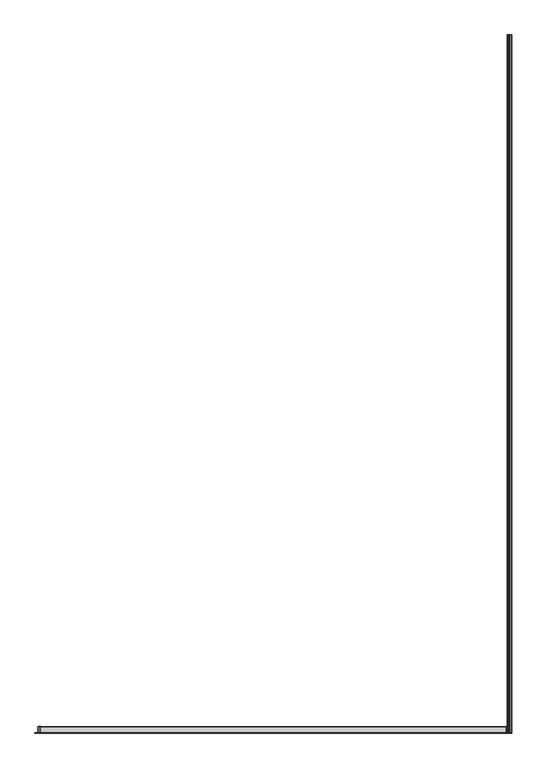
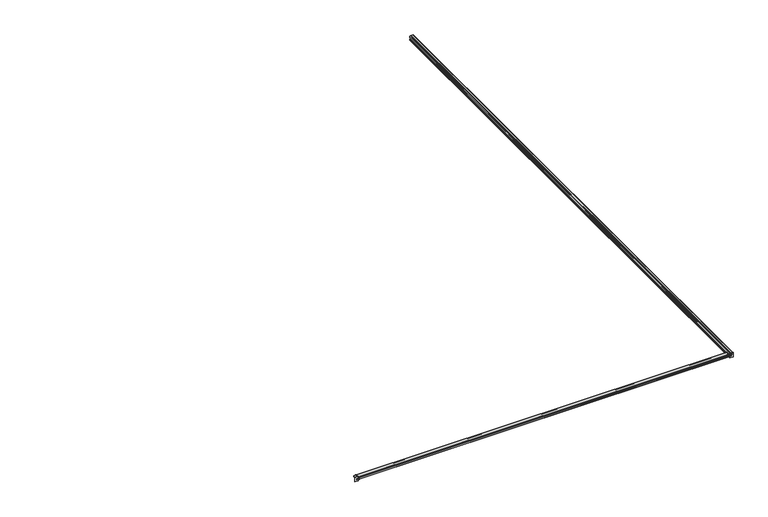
"""IFC4 building model written with IfcOpenShell, lengths in millimetres: proxy geometry, ZIP135 - 4 meter bred : ZIP135 - 4 meter bred."""

from ifc_helpers import new_model, si_unit, point, frame, frame_2d, origin, place, context, project, spatial, polyline, circle_curve, trimmed, segment, composite_curve, outline, extrude, source, transform, mapped, element, save
from ifc_brep_helpers import plane_surface, cylinder_surface, revolved_surface, advanced_brep


def generic_models_36cb86f8(model_context):
    return source(origin(), model_context, "Body", "SolidModel", [
        extrude(outline(polyline([(1978.0, 0.0), (1963.0, 0.0), (1963.0, 55.2300184), (1978.0, 55.2300184), (1978.0, 0.0)])), frame((0.0, 0.0, 17.2883626), z_axis=(0.0, 0.0, 1.0), x_axis=(1.0, 0.0, 0.0)), (0.0, 0.0, 1.0), 11.0704734),
        extrude(outline(polyline([(-1978.0, 0.0), (-1978.0, 55.2300184), (-1963.0, 55.2300184), (-1963.0, 0.0), (-1978.0, 0.0)])), frame((0.0, 0.0, 17.2883626), z_axis=(0.0, 0.0, 1.0), x_axis=(1.0, 0.0, 0.0)), (0.0, 0.0, 1.0), 11.0704734),
        extrude(outline(composite_curve([segment(trimmed(circle_curve(frame_2d((27.7172667, -112.3261712)), 150.0), [point((8.5247175, 36.4409154))], [point((47.4894252, 36.3649911))], False, "CARTESIAN"), True, "CONTINUOUS"), segment(polyline([(47.4894252, 36.3649911), (52.690799, 33.4461938)]), True, "CONTINUOUS"), segment(trimmed(circle_curve(frame_2d((50.7333087, 29.9578945)), 4.0), [point((52.690799, 33.4461938))], [point((54.6573134, 30.7339018))], False, "CARTESIAN"), True, "CONTINUOUS"), segment(trimmed(circle_curve(frame_2d((15.4172667, 22.9738288)), 40.0), [point((54.6573134, 30.7339018))], [point((55.4172667, 22.9738288))], False, "CARTESIAN"), True, "CONTINUOUS"), segment(trimmed(circle_curve(frame_2d((15.4172667, 22.9738288)), 40.0), [point((55.4172667, 22.9738288))], [point((54.6573134, 15.2137557))], False, "CARTESIAN"), True, "CONTINUOUS"), segment(trimmed(circle_curve(frame_2d((50.7333087, 15.989763)), 4.0), [point((54.6573134, 15.2137557))], [point((52.690799, 12.5014637))], False, "CARTESIAN"), True, "CONTINUOUS"), segment(polyline([(52.690799, 12.5014637), (47.4894252, 9.5826664)]), True, "CONTINUOUS"), segment(trimmed(circle_curve(frame_2d((27.7172667, 158.2738288)), 150.0), [point((47.4894252, 9.5826664))], [point((7.9451082, 9.5826664))], False, "CARTESIAN"), True, "CONTINUOUS"), segment(polyline([(7.9451082, 9.5826664), (2.7437344, 12.5014637)]), True, "CONTINUOUS"), segment(trimmed(circle_curve(frame_2d((4.7012246, 15.989763)), 4.0), [point((2.7437344, 12.5014637))], [point((0.77722, 15.2137557))], False, "CARTESIAN"), True, "CONTINUOUS"), segment(trimmed(circle_curve(frame_2d((40.0172667, 22.9738288)), 40.0), [point((0.77722, 15.2137557))], [point((0.77722, 30.7339018))], False, "CARTESIAN"), True, "CONTINUOUS"), segment(trimmed(circle_curve(frame_2d((4.7012246, 29.9578945)), 4.0), [point((0.77722, 30.7339018))], [point((2.7437344, 33.4461938))], False, "CARTESIAN"), True, "CONTINUOUS"), segment(polyline([(2.7437344, 33.4461938), (7.4404509, 36.0817981)]), True, "CONTINUOUS"), segment(trimmed(circle_curve(frame_2d((8.9085685, 33.4655736)), 3.0), [point((7.4404509, 36.0817981))], [point((8.5247175, 36.4409154))], False, "CARTESIAN"), True, "CONTINUOUS")], self_intersect=False)), frame((1956.0, 0.0, 0.0), z_axis=(1.0, 0.0, 0.0), x_axis=(0.0, 1.0, 0.0)), (0.0, 0.0, 1.0), 7.0),
        extrude(outline(composite_curve([segment(trimmed(circle_curve(frame_2d((27.7172667, -112.3261712)), 150.0), [point((8.5247175, 36.4409154))], [point((47.4894252, 36.3649911))], False, "CARTESIAN"), True, "CONTINUOUS"), segment(polyline([(47.4894252, 36.3649911), (52.690799, 33.4461938)]), True, "CONTINUOUS"), segment(trimmed(circle_curve(frame_2d((50.7333087, 29.9578945)), 4.0), [point((52.690799, 33.4461938))], [point((54.6573134, 30.7339018))], False, "CARTESIAN"), True, "CONTINUOUS"), segment(trimmed(circle_curve(frame_2d((15.4172667, 22.9738288)), 40.0), [point((54.6573134, 30.7339018))], [point((55.4172667, 22.9738288))], False, "CARTESIAN"), True, "CONTINUOUS"), segment(trimmed(circle_curve(frame_2d((15.4172667, 22.9738288)), 40.0), [point((55.4172667, 22.9738288))], [point((54.6573134, 15.2137557))], False, "CARTESIAN"), True, "CONTINUOUS"), segment(trimmed(circle_curve(frame_2d((50.7333087, 15.989763)), 4.0), [point((54.6573134, 15.2137557))], [point((52.690799, 12.5014637))], False, "CARTESIAN"), True, "CONTINUOUS"), segment(polyline([(52.690799, 12.5014637), (47.4894252, 9.5826664)]), True, "CONTINUOUS"), segment(trimmed(circle_curve(frame_2d((27.7172667, 158.2738288)), 150.0), [point((47.4894252, 9.5826664))], [point((7.9451082, 9.5826664))], False, "CARTESIAN"), True, "CONTINUOUS"), segment(polyline([(7.9451082, 9.5826664), (2.7437344, 12.5014637)]), True, "CONTINUOUS"), segment(trimmed(circle_curve(frame_2d((4.7012246, 15.989763)), 4.0), [point((2.7437344, 12.5014637))], [point((0.77722, 15.2137557))], False, "CARTESIAN"), True, "CONTINUOUS"), segment(trimmed(circle_curve(frame_2d((40.0172667, 22.9738288)), 40.0), [point((0.77722, 15.2137557))], [point((0.77722, 30.7339018))], False, "CARTESIAN"), True, "CONTINUOUS"), segment(trimmed(circle_curve(frame_2d((4.7012246, 29.9578945)), 4.0), [point((0.77722, 30.7339018))], [point((2.7437344, 33.4461938))], False, "CARTESIAN"), True, "CONTINUOUS"), segment(polyline([(2.7437344, 33.4461938), (7.4404509, 36.0817981)]), True, "CONTINUOUS"), segment(trimmed(circle_curve(frame_2d((8.9085685, 33.4655736)), 3.0), [point((7.4404509, 36.0817981))], [point((8.5247175, 36.4409154))], False, "CARTESIAN"), True, "CONTINUOUS")], self_intersect=False)), frame((-1963.0, 0.0, 0.0), z_axis=(1.0, 0.0, 0.0), x_axis=(0.0, 1.0, 0.0)), (0.0, 0.0, 1.0), 7.0),
        extrude(outline(composite_curve([segment(trimmed(circle_curve(frame_2d((46.5259648, 33.4655736)), 3.0), [point((46.9098158, 36.4409154))], [point((47.9940825, 36.0817981))], False, "CARTESIAN"), True, "CONTINUOUS"), segment(polyline([(47.9940825, 36.0817981), (52.690799, 33.4461938)]), True, "CONTINUOUS"), segment(trimmed(circle_curve(frame_2d((50.7333087, 29.9578945)), 4.0), [point((52.690799, 33.4461938))], [point((54.6573134, 30.7339018))], False, "CARTESIAN"), True, "CONTINUOUS"), segment(trimmed(circle_curve(frame_2d((15.4172667, 22.9738288)), 40.0), [point((54.6573134, 30.7339018))], [point((55.1898026, 27.233569))], False, "CARTESIAN"), True, "CONTINUOUS"), segment(trimmed(circle_curve(frame_2d((53.6983325, 27.0738288)), 1.5), [point((55.1898026, 27.233569))], [point((53.6983325, 25.5738288))], False, "CARTESIAN"), True, "CONTINUOUS"), segment(polyline([(53.6983325, 25.5738288), (51.763915, 25.5738288)]), True, "CONTINUOUS"), segment(trimmed(circle_curve(frame_2d((46.9172667, 22.9738288)), 5.5), [point((51.763915, 25.5738288))], [point((51.763915, 20.3738288))], True, "CARTESIAN"), True, "CONTINUOUS"), segment(polyline([(51.763915, 20.3738288), (53.6983325, 20.3738288)]), True, "CONTINUOUS"), segment(trimmed(circle_curve(frame_2d((53.6983325, 18.8738288)), 1.5), [point((53.6983325, 20.3738288))], [point((55.1898026, 18.7140885))], False, "CARTESIAN"), True, "CONTINUOUS"), segment(trimmed(circle_curve(frame_2d((15.4172667, 22.9738288)), 40.0), [point((55.1898026, 18.7140885))], [point((54.6573134, 15.2137557))], False, "CARTESIAN"), True, "CONTINUOUS"), segment(trimmed(circle_curve(frame_2d((50.7333087, 15.989763)), 4.0), [point((54.6573134, 15.2137557))], [point((52.690799, 12.5014637))], False, "CARTESIAN"), True, "CONTINUOUS"), segment(polyline([(52.690799, 12.5014637), (47.4894252, 9.5826664)]), True, "CONTINUOUS"), segment(trimmed(circle_curve(frame_2d((27.7172667, 158.2738288)), 150.0), [point((47.4894252, 9.5826664))], [point((8.5247175, 9.5067421))], False, "CARTESIAN"), True, "CONTINUOUS"), segment(trimmed(circle_curve(frame_2d((8.9085685, 12.4820839)), 3.0), [point((8.5247175, 9.5067421))], [point((7.4404509, 9.8658594))], False, "CARTESIAN"), True, "CONTINUOUS"), segment(polyline([(7.4404509, 9.8658594), (2.7437344, 12.5014637)]), True, "CONTINUOUS"), segment(trimmed(circle_curve(frame_2d((4.7012246, 15.989763)), 4.0), [point((2.7437344, 12.5014637))], [point((0.77722, 15.2137557))], False, "CARTESIAN"), True, "CONTINUOUS"), segment(trimmed(circle_curve(frame_2d((40.0172667, 22.9738288)), 40.0), [point((0.77722, 15.2137557))], [point((0.77722, 30.7339018))], False, "CARTESIAN"), True, "CONTINUOUS"), segment(trimmed(circle_curve(frame_2d((4.7012246, 29.9578945)), 4.0), [point((0.77722, 30.7339018))], [point((2.7437344, 33.4461938))], False, "CARTESIAN"), True, "CONTINUOUS"), segment(polyline([(2.7437344, 33.4461938), (7.4404509, 36.0817981)]), True, "CONTINUOUS"), segment(trimmed(circle_curve(frame_2d((8.9085685, 33.4655736)), 3.0), [point((7.4404509, 36.0817981))], [point((8.5247175, 36.4409154))], False, "CARTESIAN"), True, "CONTINUOUS"), segment(trimmed(circle_curve(frame_2d((27.7172667, -112.3261712)), 150.0), [point((8.5247175, 36.4409154))], [point((46.9098158, 36.4409154))], False, "CARTESIAN"), True, "CONTINUOUS")], self_intersect=False)), frame((-1956.0, 0.0, 0.0), z_axis=(1.0, 0.0, 0.0), x_axis=(0.0, 1.0, 0.0)), (0.0, 0.0, 1.0), 3912.0),
        extrude(outline(composite_curve([segment(trimmed(circle_curve(frame_2d((2.0, 1998.0)), 2.0), [point((0.0, 1998.0))], [point((2.0, 2000.0))], False, "CARTESIAN"), True, "CONTINUOUS"), segment(polyline([(2.0, 2000.0), (47.953017, 2000.0)]), True, "CONTINUOUS"), segment(trimmed(circle_curve(frame_2d((-251.2154984, 1977.6796188)), 300.0), [point((47.953017, 2000.0))], [point((48.5438844, 1965.6666067))], False, "CARTESIAN"), True, "CONTINUOUS"), segment(trimmed(circle_curve(frame_2d((46.5454885, 1965.7466935)), 2.0), [point((48.5438844, 1965.6666067))], [point((46.7031883, 1963.7529205))], False, "CARTESIAN"), True, "CONTINUOUS"), segment(trimmed(circle_curve(frame_2d((30.1678714, 2172.80625)), 209.70625), [point((46.7031883, 1963.7529205))], [point((20.9005655, 1963.3048697))], False, "CARTESIAN"), True, "CONTINUOUS"), segment(trimmed(circle_curve(frame_2d((11.65, 2047.8)), 85.0), [point((20.9005655, 1963.3048697))], [point((1.7674699, 1963.3764512))], False, "CARTESIAN"), True, "CONTINUOUS"), segment(trimmed(circle_curve(frame_2d((2.0, 1965.3628876)), 2.0), [point((1.7674699, 1963.3764512))], [point((0.0, 1965.3628876))], False, "CARTESIAN"), True, "CONTINUOUS"), segment(polyline([(0.0, 1965.3628876), (0.0, 1998.0)]), True, "CONTINUOUS")], self_intersect=False)), frame((0.0, 0.0, 0.0), z_axis=(0.0, 1.0, 0.0), x_axis=(0.0, 0.0, 1.0)), (0.0, 0.0, 1.0), 2.5),
        advanced_brep(
        [(1972.6, 2.5, 31.4678714), (1969.3, 2.5, 31.4678714), (1968.8, 2.5, 31.9678714), (1968.8, 2.5, 37.8678714), (1978.9, 2.5, 37.8678714), (1979.3769696, 2.5, 38.5178714), (1978.9, 2.5, 39.1678714), (1969.3, 2.5, 39.1678714), (1968.8, 2.5, 39.6678714), (1968.8, 2.5, 43.1361571), (1968.8, 2.5, 46.5762226), (1971.3890908, 2.5, 47.418256), (1977.9003699, 2.5, 47.4844201), (1978.3999988, 2.5, 46.9856568), (1979.1649596, 2.5, 46.5616328), (1980.6187174, 2.5, 47.4700414), (1998.5, 2.5, 46.7579933), (1998.5, 2.5, 45.3433716), (1999.8, 2.5, 45.9678714), (1999.8, 2.5, 47.0376315), (1998.8706367, 2.5, 48.0351336), (1965.6666067, 2.5, 48.5438844), (1963.7529205, 2.5, 46.7031883), (1963.1024072, 2.5, 31.1726628), (1964.1023957, 2.5, 30.1678714), (1972.6, 2.5, 30.1678714), (1973.0769696, 2.5, 30.8178714), (1972.6, 5857.0, 31.4678714), (1973.0769696, 5857.0, 30.8178714), (1972.6, 5857.0, 30.1678714), (1964.1023957, 5857.0, 30.1678714), (1963.1024072, 5857.0, 31.1726628), (1963.7529205, 5857.0, 46.7031883), (1965.6666067, 5857.0, 48.5438844), (1998.8706367, 5857.0, 48.0351336), (1999.8, 5857.0, 47.0376315), (1999.8, 5857.0, 45.9678714), (1998.5, 5857.0, 45.3433716), (1998.5, 5857.0, 46.7579933), (1980.6187174, 5857.0, 47.4700414), (1979.1649596, 5857.0, 46.5616328), (1978.4, 5857.0, 46.9856568), (1977.9003699, 5857.0, 47.4844201), (1971.3890908, 5857.0, 47.418256), (1968.8, 5857.0, 46.5762226), (1968.8, 5857.0, 43.1361571), (1968.8, 5857.0, 39.6678714), (1969.3, 5857.0, 39.1678714), (1978.9, 5857.0, 39.1678714), (1979.3769696, 5857.0, 38.5178714), (1978.9, 5857.0, 37.8678714), (1968.8, 5857.0, 37.8678714), (1968.8, 5857.0, 31.9678714), (1969.3, 5857.0, 31.4678714)],
        [
            (0, 1),
            (1, 2, circle_curve(frame((1969.3, 2.5, 31.9678714), z_axis=(0.0, 1.0, 0.0), x_axis=(-1.0, 0.0, 0.0)), 0.5)),
            (2, 3),
            (3, 4),
            (4, 5, circle_curve(frame((1978.9, 2.5, 38.3678714), z_axis=(0.0, -1.0, 0.0), x_axis=(-1.0, 0.0, 0.0)), 0.5)),
            (5, 6, circle_curve(frame((1978.9, 2.5, 38.6678714), z_axis=(0.0, -1.0, 0.0), x_axis=(-1.0, 0.0, 0.0)), 0.5)),
            (6, 7),
            (7, 8, circle_curve(frame((1969.3, 2.5, 39.6678714), z_axis=(0.0, 1.0, 0.0), x_axis=(-1.0, 0.0, 0.0)), 0.5)),
            (8, 9),
            (9, 10),
            (10, 11, circle_curve(frame((1969.6, 2.5, 48.5178714), z_axis=(0.0, -1.0, 0.0), x_axis=(-1.0, 0.0, 0.0)), 2.1)),
            (11, 12, circle_curve(frame((1977.6796188, 2.5, -251.2154984), z_axis=(0.0, 1.0, 0.0), x_axis=(-1.0, 0.0, 0.0)), 298.7)),
            (12, 13, circle_curve(frame((1977.9000004, 2.5, 46.9844202), z_axis=(0.0, 1.0, 0.0), x_axis=(-1.0, 0.0, 0.0)), 0.5)),
            (13, 14, circle_curve(frame((1978.9, 2.5, 46.9856568), z_axis=(0.0, -1.0, 0.0), x_axis=(-1.0, 0.0, 0.0)), 0.5)),
            (14, 15),
            (15, 16, circle_curve(frame((1977.6796188, 2.5, -251.2154984), z_axis=(0.0, 1.0, 0.0), x_axis=(-1.0, 0.0, 0.0)), 298.7)),
            (16, 17),
            (17, 18, circle_curve(frame((1999.0, 2.5, 45.9678714), z_axis=(0.0, -1.0, 0.0), x_axis=(-1.0, 0.0, 0.0)), 0.8)),
            (18, 19),
            (19, 20, circle_curve(frame((1998.8, 2.5, 47.0376315), z_axis=(0.0, -1.0, 0.0), x_axis=(-1.0, 0.0, 0.0)), 1.0)),
            (20, 21, circle_curve(frame((1977.6796188, 2.5, -251.2154984), z_axis=(0.0, -1.0, 0.0), x_axis=(-1.0, 0.0, 0.0)), 300.0)),
            (21, 22, circle_curve(frame((1965.7466935, 2.5, 46.5454885), z_axis=(0.0, -1.0, 0.0), x_axis=(-1.0, 0.0, 0.0)), 2.0)),
            (22, 23, circle_curve(frame((2172.80625, 2.5, 30.1678714), z_axis=(0.0, -1.0, 0.0), x_axis=(-1.0, 0.0, 0.0)), 209.70625)),
            (23, 24, circle_curve(frame((1964.1023957, 2.5, 31.1678714), z_axis=(0.0, -1.0, 0.0), x_axis=(-1.0, 0.0, 0.0)), 1.0)),
            (24, 25),
            (25, 26, circle_curve(frame((1972.6, 2.5, 30.6678714), z_axis=(0.0, -1.0, 0.0), x_axis=(-1.0, 0.0, 0.0)), 0.5)),
            (26, 0, circle_curve(frame((1972.6, 2.5, 30.9678714), z_axis=(0.0, -1.0, 0.0), x_axis=(-1.0, 0.0, 0.0)), 0.5)),
            (27, 28, circle_curve(frame((1972.6, 5857.0, 30.9678714), z_axis=(0.0, 1.0, 0.0), x_axis=(-1.0, 0.0, 0.0)), 0.5)),
            (28, 29, circle_curve(frame((1972.6, 5857.0, 30.6678714), z_axis=(0.0, 1.0, 0.0), x_axis=(-1.0, 0.0, 0.0)), 0.5)),
            (29, 30),
            (30, 31, circle_curve(frame((1964.1023957, 5857.0, 31.1678714), z_axis=(0.0, 1.0, 0.0), x_axis=(-1.0, 0.0, 0.0)), 1.0)),
            (31, 32, circle_curve(frame((2172.80625, 5857.0, 30.1678714), z_axis=(0.0, 1.0, 0.0), x_axis=(-1.0, 0.0, 0.0)), 209.70625)),
            (32, 33, circle_curve(frame((1965.7466935, 5857.0, 46.5454885), z_axis=(0.0, 1.0, 0.0), x_axis=(-1.0, 0.0, 0.0)), 2.0)),
            (33, 34, circle_curve(frame((1977.6796188, 5857.0, -251.2154984), z_axis=(0.0, 1.0, 0.0), x_axis=(-1.0, 0.0, 0.0)), 300.0)),
            (34, 35, circle_curve(frame((1998.8, 5857.0, 47.0376315), z_axis=(0.0, 1.0, 0.0), x_axis=(-1.0, 0.0, 0.0)), 1.0)),
            (35, 36),
            (36, 37, circle_curve(frame((1999.0, 5857.0, 45.9678714), z_axis=(0.0, 1.0, 0.0), x_axis=(-1.0, 0.0, 0.0)), 0.8)),
            (37, 38),
            (38, 39, circle_curve(frame((1977.6796188, 5857.0, -251.2154984), z_axis=(0.0, -1.0, 0.0), x_axis=(-1.0, 0.0, 0.0)), 298.7)),
            (39, 40),
            (40, 41, circle_curve(frame((1978.9, 5857.0, 46.9856568), z_axis=(0.0, 1.0, 0.0), x_axis=(-1.0, 0.0, 0.0)), 0.5)),
            (41, 42, circle_curve(frame((1977.9000004, 5857.0, 46.9844202), z_axis=(0.0, -1.0, 0.0), x_axis=(-1.0, 0.0, 0.0)), 0.5)),
            (42, 43, circle_curve(frame((1977.6796188, 5857.0, -251.2154984), z_axis=(0.0, -1.0, 0.0), x_axis=(-1.0, 0.0, 0.0)), 298.7)),
            (43, 44, circle_curve(frame((1969.6, 5857.0, 48.5178714), z_axis=(0.0, 1.0, 0.0), x_axis=(-1.0, 0.0, 0.0)), 2.1)),
            (44, 45),
            (45, 46),
            (46, 47, circle_curve(frame((1969.3, 5857.0, 39.6678714), z_axis=(0.0, -1.0, 0.0), x_axis=(-1.0, 0.0, 0.0)), 0.5)),
            (47, 48),
            (48, 49, circle_curve(frame((1978.9, 5857.0, 38.6678714), z_axis=(0.0, 1.0, 0.0), x_axis=(-1.0, 0.0, 0.0)), 0.5)),
            (49, 50, circle_curve(frame((1978.9, 5857.0, 38.3678714), z_axis=(0.0, 1.0, 0.0), x_axis=(-1.0, 0.0, 0.0)), 0.5)),
            (50, 51),
            (51, 52),
            (52, 53, circle_curve(frame((1969.3, 5857.0, 31.9678714), z_axis=(0.0, -1.0, 0.0), x_axis=(-1.0, 0.0, 0.0)), 0.5)),
            (53, 27),
            (0, 27),
            (53, 1),
            (52, 2),
            (51, 3),
            (50, 4),
            (49, 5),
            (48, 6),
            (47, 7),
            (46, 8),
            (45, 9),
            (44, 10),
            (43, 11),
            (42, 12),
            (41, 13),
            (40, 14),
            (39, 15),
            (38, 16),
            (37, 17),
            (36, 18),
            (35, 19),
            (34, 20),
            (33, 21),
            (32, 22),
            (31, 23),
            (30, 24),
            (29, 25),
            (28, 26),
        ],
        [
            plane_surface(frame((1972.1, 2.5, 30.9678714), z_axis=(0.0, -1.0, 0.0), x_axis=(0.0, 0.0, 1.0))),
            plane_surface(frame((1972.1, 5857.0, 30.9678714), z_axis=(0.0, 1.0, 0.0), x_axis=(0.0, 0.0, -1.0))),
            plane_surface(frame((1969.3, 2.5, 31.4678714), z_axis=(0.0, 0.0, 1.0), x_axis=(0.0, 1.0, 0.0))),
            revolved_surface(polyline([(1968.8, 5857.0, 31.9678714), (1968.8, 2.5, 31.9678714)]), (1969.3, 5857.0, 31.9678714), (0.0, 1.0, 0.0)),
            plane_surface(frame((1968.8, 2.5, 37.8678714), z_axis=(1.0, 0.0, 0.0), x_axis=(0.0, 1.0, 0.0))),
            plane_surface(frame((1978.9, 2.5, 37.8678714), z_axis=(0.0, 0.0, -1.0), x_axis=(0.0, 1.0, 0.0))),
            cylinder_surface(frame((1978.9, 5857.0, 38.3678714), z_axis=(0.0, -1.0, 0.0), x_axis=(-1.0, 0.0, 0.0)), 0.5),
            cylinder_surface(frame((1978.9, 5857.0, 38.6678714), z_axis=(0.0, -1.0, 0.0), x_axis=(-1.0, 0.0, 0.0)), 0.5),
            plane_surface(frame((1969.3, 2.5, 39.1678714), z_axis=(0.0, 0.0, 1.0), x_axis=(0.0, 1.0, 0.0))),
            revolved_surface(polyline([(1968.8, 5857.0, 39.6678714), (1968.8, 2.5, 39.6678714)]), (1969.3, 5857.0, 39.6678714), (0.0, 1.0, 0.0)),
            plane_surface(frame((1968.8, 2.5, 43.1361571), z_axis=(1.0, 0.0, 0.0), x_axis=(0.0, 1.0, 0.0))),
            plane_surface(frame((1968.8, 2.5, 46.5762226), z_axis=(1.0, 0.0, 0.0), x_axis=(0.0, 1.0, 0.0))),
            cylinder_surface(frame((1969.6, 5857.0, 48.5178714), z_axis=(0.0, -1.0, 0.0), x_axis=(-1.0, 0.0, 0.0)), 2.1),
            revolved_surface(polyline([(1678.9796188, 5857.0, -251.2154984), (1678.9796188, 2.5, -251.2154984)]), (1977.6796188, 5857.0, -251.2154984), (0.0, 1.0, 0.0)),
            revolved_surface(polyline([(1977.4000004, 5857.0, 46.9844202), (1977.4000004, 2.5, 46.9844202)]), (1977.9000004, 5857.0, 46.9844202), (0.0, 1.0, 0.0)),
            cylinder_surface(frame((1978.9, 5857.0, 46.9856568), z_axis=(0.0, -1.0, 0.0), x_axis=(-1.0, 0.0, 0.0)), 0.5),
            plane_surface(frame((1980.6187174, 2.5, 47.4700414), z_axis=(0.529919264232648, 0.0, -0.848048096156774), x_axis=(0.0, 1.0, 0.0))),
            plane_surface(frame((1998.5, 2.5, 45.3433716), z_axis=(-1.0, 0.0, 0.0), x_axis=(0.0, 1.0, 0.0))),
            cylinder_surface(frame((1999.0, 5857.0, 45.9678714), z_axis=(0.0, -1.0, 0.0), x_axis=(-1.0, 0.0, 0.0)), 0.8),
            plane_surface(frame((1999.8, 2.5, 47.0376315), z_axis=(1.0, 0.0, 0.0), x_axis=(0.0, 1.0, 0.0))),
            cylinder_surface(frame((1998.8, 5857.0, 47.0376315), z_axis=(0.0, -1.0, 0.0), x_axis=(-1.0, 0.0, 0.0)), 1.0),
            cylinder_surface(frame((1977.6796188, 5857.0, -251.2154984), z_axis=(0.0, -1.0, 0.0), x_axis=(-1.0, 0.0, 0.0)), 300.0),
            cylinder_surface(frame((1965.7466935, 5857.0, 46.5454885), z_axis=(0.0, -1.0, 0.0), x_axis=(-1.0, 0.0, 0.0)), 2.0),
            cylinder_surface(frame((2172.80625, 5857.0, 30.1678714), z_axis=(0.0, -1.0, 0.0), x_axis=(-1.0, 0.0, 0.0)), 209.70625),
            cylinder_surface(frame((1964.1023957, 5857.0, 31.1678714), z_axis=(0.0, -1.0, 0.0), x_axis=(-1.0, 0.0, 0.0)), 1.0),
            plane_surface(frame((1972.6, 2.5, 30.1678714), z_axis=(0.0, 0.0, -1.0), x_axis=(0.0, 1.0, 0.0))),
            cylinder_surface(frame((1972.6, 5857.0, 30.6678714), z_axis=(0.0, -1.0, 0.0), x_axis=(-1.0, 0.0, 0.0)), 0.5),
            cylinder_surface(frame((1972.6, 5857.0, 30.9678714), z_axis=(0.0, -1.0, 0.0), x_axis=(-1.0, 0.0, 0.0)), 0.5),
        ],
        [
            (0, [[1, 2, 3, 4, 5, 6, 7, 8, 9, 10, 11, 12, 13, 14, 15, 16, 17, 18, 19, 20, 21, 22, 23, 24, 25, 26, 27]]),
            (1, [[28, 29, 30, 31, 32, 33, 34, 35, 36, 37, 38, 39, 40, 41, 42, 43, 44, 45, 46, 47, 48, 49, 50, 51, 52, 53, 54]]),
            (2, [[55, -54, 56, -1]]),
            (3, [[-56, -53, 57, -2]]),
            (4, [[-57, -52, 58, -3]]),
            (5, [[-58, -51, 59, -4]]),
            (6, [[-59, -50, 60, -5]]),
            (7, [[-60, -49, 61, -6]]),
            (8, [[-61, -48, 62, -7]]),
            (9, [[-62, -47, 63, -8]]),
            (10, [[-63, -46, 64, -9]]),
            (11, [[-64, -45, 65, -10]]),
            (12, [[-65, -44, 66, -11]]),
            (13, [[-66, -43, 67, -12]]),
            (14, [[-67, -42, 68, -13]]),
            (15, [[-68, -41, 69, -14]]),
            (16, [[-69, -40, 70, -15]]),
            (13, [[-70, -39, 71, -16]]),
            (17, [[-71, -38, 72, -17]]),
            (18, [[-72, -37, 73, -18]]),
            (19, [[-73, -36, 74, -19]]),
            (20, [[-74, -35, 75, -20]]),
            (21, [[-75, -34, 76, -21]]),
            (22, [[-76, -33, 77, -22]]),
            (23, [[-77, -32, 78, -23]]),
            (24, [[-78, -31, 79, -24]]),
            (25, [[-79, -30, 80, -25]]),
            (26, [[-80, -29, 81, -26]]),
            (27, [[-81, -28, -55, -27]]),
        ],
    ),
        advanced_brep(
        [(1962.8295553, 2.5, 13.8913237), (1963.3764512, 2.5, 1.7674699), (1965.3628876, 2.5, 0.0), (1972.05, 2.5, 0.0), (1972.05, 2.5, 1.5), (1968.5, 2.5, 1.5), (1968.5, 2.5, 4.8), (1969.5, 2.5, 5.8), (1983.1, 2.5, 5.8), (1984.1, 2.5, 4.8), (1984.1, 2.5, 2.0), (1983.6, 2.5, 1.5), (1980.55, 2.5, 1.5), (1980.55, 2.5, 0.0), (1991.3611718, 2.5, 0.0), (1998.0, 2.5, 0.0), (2000.0, 2.5, 2.0), (2000.0, 2.5, 45.05), (1997.6, 2.5, 45.05), (1997.6, 2.5, 46.75), (1996.0, 2.5, 44.35), (1996.0, 2.5, 43.35), (1996.5, 2.5, 42.85), (1998.1, 2.5, 42.85), (1998.6, 2.5, 42.35), (1998.6, 2.5, 29.6), (1998.1, 2.5, 29.1), (1990.3934914, 2.5, 29.1), (1985.2, 2.5, 29.1), (1985.2, 2.5, 37.0), (1984.479504, 2.5, 38.5371628), (1984.0348837, 2.5, 39.472153), (1981.757213, 2.5, 39.4801617), (1981.1622989, 2.5, 40.0872673), (1981.1730561, 2.5, 41.1478729), (1981.7801617, 2.5, 41.742787), (1984.0348837, 2.5, 41.727847), (1984.8151163, 2.5, 42.5032419), (1981.803125, 2.5, 43.0671573), (1981.1055598, 2.5, 43.5983945), (1979.1, 2.5, 45.9), (1968.8101021, 2.5, 45.9), (1969.3, 2.5, 44.7), (1978.6, 2.5, 44.7), (1979.6, 2.5, 43.7), (1979.6, 2.5, 41.5), (1978.6, 2.5, 40.5), (1968.8101021, 2.5, 40.5), (1969.3, 2.5, 39.3), (1979.724617, 2.5, 39.3), (1979.724617, 2.5, 38.3794826), (1980.7, 2.5, 37.6), (1982.8, 2.5, 37.6), (1983.8, 2.5, 36.6), (1983.8, 2.5, 20.6143806), (1983.8, 2.5, 7.2), (1969.5, 2.5, 7.2), (1968.5, 2.5, 8.2), (1968.5, 2.5, 12.85), (1969.0, 2.5, 13.35), (1972.3, 2.5, 13.35), (1972.7769696, 2.5, 14.0), (1972.3, 2.5, 14.65), (1963.8, 2.5, 14.65), (1962.8295553, 5857.0, 13.8913237), (1963.8, 5857.0, 14.65), (1972.3, 5857.0, 14.65), (1972.7769696, 5857.0, 14.0), (1972.3, 5857.0, 13.35), (1969.0, 5857.0, 13.35), (1968.5, 5857.0, 12.85), (1968.5, 5857.0, 8.2), (1969.5, 5857.0, 7.2), (1983.8, 5857.0, 7.2), (1983.8, 5857.0, 20.6143806), (1983.8, 5857.0, 36.6), (1982.8, 5857.0, 37.6), (1980.7, 5857.0, 37.6), (1979.724617, 5857.0, 38.3794826), (1979.724617, 5857.0, 39.3), (1969.3, 5857.0, 39.3), (1968.8101021, 5857.0, 40.5), (1978.6, 5857.0, 40.5), (1979.6, 5857.0, 41.5), (1979.6, 5857.0, 43.7), (1978.6, 5857.0, 44.7), (1969.3, 5857.0, 44.7), (1968.8101021, 5857.0, 45.9), (1979.1, 5857.0, 45.9), (1981.077761, 5857.0, 43.6025751), (1981.803125, 5857.0, 43.0671573), (1984.8151163, 5857.0, 42.5032419), (1984.0348837, 5857.0, 41.727847), (1981.7801617, 5857.0, 41.742787), (1981.1730561, 5857.0, 41.1478729), (1981.1622989, 5857.0, 40.0872673), (1981.757213, 5857.0, 39.4801617), (1984.0348837, 5857.0, 39.472153), (1984.479504, 5857.0, 38.5371628), (1985.2, 5857.0, 37.0), (1985.2, 5857.0, 29.1), (1990.3934914, 5857.0, 29.1), (1998.1, 5857.0, 29.1), (1998.6, 5857.0, 29.6), (1998.6, 5857.0, 42.35), (1998.1, 5857.0, 42.85), (1996.5, 5857.0, 42.85), (1996.0, 5857.0, 43.35), (1996.0, 5857.0, 44.35), (1997.6, 5857.0, 46.75), (1997.6, 5857.0, 45.05), (2000.0, 5857.0, 45.05), (2000.0, 5857.0, 2.0), (1998.0, 5857.0, 0.0), (1991.3611718, 5857.0, 0.0), (1980.55, 5857.0, 0.0), (1980.55, 5857.0, 1.5), (1983.6, 5857.0, 1.5), (1984.1, 5857.0, 2.0), (1984.1, 5857.0, 4.8), (1983.1, 5857.0, 5.8), (1969.5, 5857.0, 5.8), (1968.5, 5857.0, 4.8), (1968.5, 5857.0, 1.5), (1972.05, 5857.0, 1.5), (1972.05, 5857.0, 0.0), (1965.3628876, 5857.0, 0.0), (1963.3764512, 5857.0, 1.7674699)],
        [
            (0, 1, circle_curve(frame((2047.8, 2.5, 11.65), z_axis=(0.0, -1.0, 0.0), x_axis=(-1.0, 0.0, 0.0)), 85.0)),
            (1, 2, circle_curve(frame((1965.3628876, 2.5, 2.0), z_axis=(0.0, -1.0, 0.0), x_axis=(-1.0, 0.0, 0.0)), 2.0)),
            (2, 3),
            (3, 4),
            (4, 5),
            (5, 6),
            (6, 7, circle_curve(frame((1969.5, 2.5, 4.8), z_axis=(0.0, 1.0, 0.0), x_axis=(-1.0, 0.0, 0.0)), 1.0)),
            (7, 8),
            (8, 9, circle_curve(frame((1983.1, 2.5, 4.8), z_axis=(0.0, 1.0, 0.0), x_axis=(-1.0, 0.0, 0.0)), 1.0)),
            (9, 10),
            (10, 11, circle_curve(frame((1983.6, 2.5, 2.0), z_axis=(0.0, 1.0, 0.0), x_axis=(-1.0, 0.0, 0.0)), 0.5)),
            (11, 12),
            (12, 13),
            (13, 14),
            (14, 15),
            (15, 16, circle_curve(frame((1998.0, 2.5, 2.0), z_axis=(0.0, -1.0, 0.0), x_axis=(-1.0, 0.0, 0.0)), 2.0)),
            (16, 17),
            (17, 18, circle_curve(frame((1998.8, 2.5, 45.55), z_axis=(0.0, 1.0, 0.0), x_axis=(-1.0, 0.0, 0.0)), 1.3)),
            (18, 19),
            (19, 20),
            (20, 21),
            (21, 22, circle_curve(frame((1996.5, 2.5, 43.35), z_axis=(0.0, -1.0, 0.0), x_axis=(-1.0, 0.0, 0.0)), 0.5)),
            (22, 23),
            (23, 24, circle_curve(frame((1998.1, 2.5, 42.35), z_axis=(0.0, 1.0, 0.0), x_axis=(-1.0, 0.0, 0.0)), 0.5)),
            (24, 25),
            (25, 26, circle_curve(frame((1998.1, 2.5, 29.6), z_axis=(0.0, 1.0, 0.0), x_axis=(-1.0, 0.0, 0.0)), 0.5)),
            (26, 27),
            (27, 28),
            (28, 29),
            (29, 30, circle_curve(frame((1983.2, 2.5, 37.0), z_axis=(0.0, -1.0, 0.0), x_axis=(-1.0, 0.0, 0.0)), 2.0)),
            (30, 31, circle_curve(frame((1984.425, 2.5, 39.0844555), z_axis=(0.0, -1.0, 0.0), x_axis=(-1.0, 0.0, 0.0)), 0.55)),
            (31, 32, circle_curve(frame((1982.9, 2.5, 40.6), z_axis=(0.0, 1.0, 0.0), x_axis=(-1.0, 0.0, 0.0)), 1.6)),
            (32, 33),
            (33, 34, circle_curve(frame((1981.6979803, 2.5, 40.6121915), z_axis=(0.0, 1.0, 0.0), x_axis=(-1.0, 0.0, 0.0)), 0.75)),
            (34, 35),
            (35, 36, circle_curve(frame((1982.9, 2.5, 40.6), z_axis=(0.0, 1.0, 0.0), x_axis=(-1.0, 0.0, 0.0)), 1.6)),
            (36, 37, circle_curve(frame((1984.425, 2.5, 42.1155445), z_axis=(0.0, -1.0, 0.0), x_axis=(-1.0, 0.0, 0.0)), 0.55)),
            (37, 38, circle_curve(frame((1982.9, 2.5, 40.6), z_axis=(0.0, -1.0, 0.0), x_axis=(-1.0, 0.0, 0.0)), 2.7)),
            (38, 39, circle_curve(frame((1981.6, 2.5, 43.5240383), z_axis=(0.0, 1.0, 0.0), x_axis=(-1.0, 0.0, 0.0)), 0.5)),
            (39, 40, circle_curve(frame((1979.1, 2.5, 43.9), z_axis=(0.0, -1.0, 0.0), x_axis=(-1.0, 0.0, 0.0)), 2.0)),
            (40, 41),
            (41, 42, circle_curve(frame((1969.3, 2.5, 45.4), z_axis=(0.0, -1.0, 0.0), x_axis=(-1.0, 0.0, 0.0)), 0.7)),
            (42, 43),
            (43, 44, circle_curve(frame((1978.6, 2.5, 43.7), z_axis=(0.0, 1.0, 0.0), x_axis=(-1.0, 0.0, 0.0)), 1.0)),
            (44, 45),
            (45, 46, circle_curve(frame((1978.6, 2.5, 41.5), z_axis=(0.0, 1.0, 0.0), x_axis=(-1.0, 0.0, 0.0)), 1.0)),
            (46, 47),
            (47, 48, circle_curve(frame((1969.3, 2.5, 40.0), z_axis=(0.0, -1.0, 0.0), x_axis=(-1.0, 0.0, 0.0)), 0.7)),
            (48, 49),
            (49, 50),
            (50, 51, circle_curve(frame((1980.7, 2.5, 38.6), z_axis=(0.0, -1.0, 0.0), x_axis=(-1.0, 0.0, 0.0)), 1.0)),
            (51, 52),
            (52, 53, circle_curve(frame((1982.8, 2.5, 36.6), z_axis=(0.0, 1.0, 0.0), x_axis=(-1.0, 0.0, 0.0)), 1.0)),
            (53, 54),
            (54, 55),
            (55, 56),
            (56, 57, circle_curve(frame((1969.5, 2.5, 8.2), z_axis=(0.0, 1.0, 0.0), x_axis=(-1.0, 0.0, 0.0)), 1.0)),
            (57, 58),
            (58, 59, circle_curve(frame((1969.0, 2.5, 12.85), z_axis=(0.0, 1.0, 0.0), x_axis=(-1.0, 0.0, 0.0)), 0.5)),
            (59, 60),
            (60, 61, circle_curve(frame((1972.3, 2.5, 13.85), z_axis=(0.0, -1.0, 0.0), x_axis=(-1.0, 0.0, 0.0)), 0.5)),
            (61, 62, circle_curve(frame((1972.3, 2.5, 14.15), z_axis=(0.0, -1.0, 0.0), x_axis=(-1.0, 0.0, 0.0)), 0.5)),
            (62, 63),
            (63, 0, circle_curve(frame((1963.8, 2.5, 13.65), z_axis=(0.0, -1.0, 0.0), x_axis=(-1.0, 0.0, 0.0)), 1.0)),
            (64, 65, circle_curve(frame((1963.8, 5857.0, 13.65), z_axis=(0.0, 1.0, 0.0), x_axis=(-1.0, 0.0, 0.0)), 1.0)),
            (65, 66),
            (66, 67, circle_curve(frame((1972.3, 5857.0, 14.15), z_axis=(0.0, 1.0, 0.0), x_axis=(-1.0, 0.0, 0.0)), 0.5)),
            (67, 68, circle_curve(frame((1972.3, 5857.0, 13.85), z_axis=(0.0, 1.0, 0.0), x_axis=(-1.0, 0.0, 0.0)), 0.5)),
            (68, 69),
            (69, 70, circle_curve(frame((1969.0, 5857.0, 12.85), z_axis=(0.0, -1.0, 0.0), x_axis=(-1.0, 0.0, 0.0)), 0.5)),
            (70, 71),
            (71, 72, circle_curve(frame((1969.5, 5857.0, 8.2), z_axis=(0.0, -1.0, 0.0), x_axis=(-1.0, 0.0, 0.0)), 1.0)),
            (72, 73),
            (73, 74),
            (74, 75),
            (75, 76, circle_curve(frame((1982.8, 5857.0, 36.6), z_axis=(0.0, -1.0, 0.0), x_axis=(-1.0, 0.0, 0.0)), 1.0)),
            (76, 77),
            (77, 78, circle_curve(frame((1980.7, 5857.0, 38.6), z_axis=(0.0, 1.0, 0.0), x_axis=(-1.0, 0.0, 0.0)), 1.0)),
            (78, 79),
            (79, 80),
            (80, 81, circle_curve(frame((1969.3, 5857.0, 40.0), z_axis=(0.0, 1.0, 0.0), x_axis=(-1.0, 0.0, 0.0)), 0.7)),
            (81, 82),
            (82, 83, circle_curve(frame((1978.6, 5857.0, 41.5), z_axis=(0.0, -1.0, 0.0), x_axis=(-1.0, 0.0, 0.0)), 1.0)),
            (83, 84),
            (84, 85, circle_curve(frame((1978.6, 5857.0, 43.7), z_axis=(0.0, -1.0, 0.0), x_axis=(-1.0, 0.0, 0.0)), 1.0)),
            (85, 86),
            (86, 87, circle_curve(frame((1969.3, 5857.0, 45.4), z_axis=(0.0, 1.0, 0.0), x_axis=(-1.0, 0.0, 0.0)), 0.7)),
            (87, 88),
            (88, 89, circle_curve(frame((1979.1, 5857.0, 43.9), z_axis=(0.0, 1.0, 0.0), x_axis=(-1.0, 0.0, 0.0)), 2.0)),
            (89, 90, circle_curve(frame((1981.6, 5857.0, 43.5240383), z_axis=(0.0, -1.0, 0.0), x_axis=(-1.0, 0.0, 0.0)), 0.5)),
            (90, 91, circle_curve(frame((1982.9, 5857.0, 40.6), z_axis=(0.0, 1.0, 0.0), x_axis=(-1.0, 0.0, 0.0)), 2.7)),
            (91, 92, circle_curve(frame((1984.425, 5857.0, 42.1155445), z_axis=(0.0, 1.0, 0.0), x_axis=(-1.0, 0.0, 0.0)), 0.55)),
            (92, 93, circle_curve(frame((1982.9, 5857.0, 40.6), z_axis=(0.0, -1.0, 0.0), x_axis=(-1.0, 0.0, 0.0)), 1.6)),
            (93, 94),
            (94, 95, circle_curve(frame((1981.6979803, 5857.0, 40.6121915), z_axis=(0.0, -1.0, 0.0), x_axis=(-1.0, 0.0, 0.0)), 0.75)),
            (95, 96),
            (96, 97, circle_curve(frame((1982.9, 5857.0, 40.6), z_axis=(0.0, -1.0, 0.0), x_axis=(-1.0, 0.0, 0.0)), 1.6)),
            (97, 98, circle_curve(frame((1984.425, 5857.0, 39.0844555), z_axis=(0.0, 1.0, 0.0), x_axis=(-1.0, 0.0, 0.0)), 0.55)),
            (98, 99, circle_curve(frame((1983.2, 5857.0, 37.0), z_axis=(0.0, 1.0, 0.0), x_axis=(-1.0, 0.0, 0.0)), 2.0)),
            (99, 100),
            (100, 101),
            (101, 102),
            (102, 103, circle_curve(frame((1998.1, 5857.0, 29.6), z_axis=(0.0, -1.0, 0.0), x_axis=(-1.0, 0.0, 0.0)), 0.5)),
            (103, 104),
            (104, 105, circle_curve(frame((1998.1, 5857.0, 42.35), z_axis=(0.0, -1.0, 0.0), x_axis=(-1.0, 0.0, 0.0)), 0.5)),
            (105, 106),
            (106, 107, circle_curve(frame((1996.5, 5857.0, 43.35), z_axis=(0.0, 1.0, 0.0), x_axis=(-1.0, 0.0, 0.0)), 0.5)),
            (107, 108),
            (108, 109),
            (109, 110),
            (110, 111, circle_curve(frame((1998.8, 5857.0, 45.55), z_axis=(0.0, -1.0, 0.0), x_axis=(-1.0, 0.0, 0.0)), 1.3)),
            (111, 112),
            (112, 113, circle_curve(frame((1998.0, 5857.0, 2.0), z_axis=(0.0, 1.0, 0.0), x_axis=(-1.0, 0.0, 0.0)), 2.0)),
            (113, 114),
            (114, 115),
            (115, 116),
            (116, 117),
            (117, 118, circle_curve(frame((1983.6, 5857.0, 2.0), z_axis=(0.0, -1.0, 0.0), x_axis=(-1.0, 0.0, 0.0)), 0.5)),
            (118, 119),
            (119, 120, circle_curve(frame((1983.1, 5857.0, 4.8), z_axis=(0.0, -1.0, 0.0), x_axis=(-1.0, 0.0, 0.0)), 1.0)),
            (120, 121),
            (121, 122, circle_curve(frame((1969.5, 5857.0, 4.8), z_axis=(0.0, -1.0, 0.0), x_axis=(-1.0, 0.0, 0.0)), 1.0)),
            (122, 123),
            (123, 124),
            (124, 125),
            (125, 126),
            (126, 127, circle_curve(frame((1965.3628876, 5857.0, 2.0), z_axis=(0.0, 1.0, 0.0), x_axis=(-1.0, 0.0, 0.0)), 2.0)),
            (127, 64, circle_curve(frame((2047.8, 5857.0, 11.65), z_axis=(0.0, 1.0, 0.0), x_axis=(-1.0, 0.0, 0.0)), 85.0)),
            (0, 64),
            (127, 1),
            (126, 2),
            (125, 3),
            (124, 4),
            (123, 5),
            (122, 6),
            (121, 7),
            (120, 8),
            (119, 9),
            (118, 10),
            (117, 11),
            (116, 12),
            (115, 13),
            (114, 14),
            (113, 15),
            (112, 16),
            (111, 17),
            (110, 18),
            (109, 19),
            (108, 20),
            (107, 21),
            (106, 22),
            (105, 23),
            (104, 24),
            (103, 25),
            (102, 26),
            (101, 27),
            (100, 28),
            (99, 29),
            (98, 30),
            (97, 31),
            (96, 32),
            (95, 33),
            (94, 34),
            (93, 35),
            (92, 36),
            (91, 37),
            (90, 38),
            (89, 39),
            (88, 40),
            (87, 41),
            (86, 42),
            (85, 43),
            (84, 44),
            (83, 45),
            (82, 46),
            (81, 47),
            (80, 48),
            (79, 49),
            (78, 50),
            (77, 51),
            (76, 52),
            (75, 53),
            (74, 54),
            (73, 55),
            (72, 56),
            (71, 57),
            (70, 58),
            (69, 59),
            (68, 60),
            (67, 61),
            (66, 62),
            (65, 63),
        ],
        [
            plane_surface(frame((1962.8, 2.5, 13.65), z_axis=(0.0, -1.0, 0.0), x_axis=(0.0, 0.0, 1.0))),
            plane_surface(frame((1962.8, 5857.0, 13.65), z_axis=(0.0, 1.0, 0.0), x_axis=(0.0, 0.0, -1.0))),
            cylinder_surface(frame((2047.8, 5857.0, 11.65), z_axis=(0.0, -1.0, 0.0), x_axis=(-1.0, 0.0, 0.0)), 85.0),
            cylinder_surface(frame((1965.3628876, 5857.0, 2.0), z_axis=(0.0, -1.0, 0.0), x_axis=(-1.0, 0.0, 0.0)), 2.0),
            plane_surface(frame((1972.05, 2.5, 0.0), z_axis=(0.0, 0.0, -1.0), x_axis=(0.0, 1.0, 0.0))),
            plane_surface(frame((1972.05, 2.5, 1.5), z_axis=(1.0, 0.0, 0.0), x_axis=(0.0, 1.0, 0.0))),
            plane_surface(frame((1968.5, 2.5, 1.5), z_axis=(0.0, 0.0, 1.0), x_axis=(0.0, 1.0, 0.0))),
            plane_surface(frame((1968.5, 2.5, 4.8), z_axis=(1.0, 0.0, 0.0), x_axis=(0.0, 1.0, 0.0))),
            revolved_surface(polyline([(1968.5, 5857.0, 4.8), (1968.5, 2.5, 4.8)]), (1969.5, 5857.0, 4.8), (0.0, 1.0, 0.0)),
            plane_surface(frame((1983.1, 2.5, 5.8), z_axis=(0.0, 0.0, -1.0), x_axis=(0.0, 1.0, 0.0))),
            revolved_surface(polyline([(1982.1, 5857.0, 4.8), (1982.1, 2.5, 4.8)]), (1983.1, 5857.0, 4.8), (0.0, 1.0, 0.0)),
            plane_surface(frame((1984.1, 2.5, 2.0), z_axis=(-1.0, 0.0, 0.0), x_axis=(0.0, 1.0, 0.0))),
            revolved_surface(polyline([(1983.1, 5857.0, 2.0), (1983.1, 2.5, 2.0)]), (1983.6, 5857.0, 2.0), (0.0, 1.0, 0.0)),
            plane_surface(frame((1980.55, 2.5, 1.5), z_axis=(0.0, 0.0, 1.0), x_axis=(0.0, 1.0, 0.0))),
            plane_surface(frame((1980.55, 2.5, 0.0), z_axis=(-1.0, 0.0, 0.0), x_axis=(0.0, 1.0, 0.0))),
            plane_surface(frame((1991.3611718, 2.5, 0.0), z_axis=(0.0, 0.0, -1.0), x_axis=(0.0, 1.0, 0.0))),
            plane_surface(frame((1998.0, 2.5, 0.0), z_axis=(0.0, 0.0, -1.0), x_axis=(0.0, 1.0, 0.0))),
            cylinder_surface(frame((1998.0, 5857.0, 2.0), z_axis=(0.0, -1.0, 0.0), x_axis=(-1.0, 0.0, 0.0)), 2.0),
            plane_surface(frame((2000.0, 2.5, 45.05), z_axis=(1.0, 0.0, 0.0), x_axis=(0.0, 1.0, 0.0))),
            revolved_surface(polyline([(1997.5, 5857.0, 45.55), (1997.5, 2.5, 45.55)]), (1998.8, 5857.0, 45.55), (0.0, 1.0, 0.0)),
            plane_surface(frame((1997.6, 2.5, 46.75), z_axis=(1.0, 0.0, 0.0), x_axis=(0.0, 1.0, 0.0))),
            plane_surface(frame((1996.0, 2.5, 44.35), z_axis=(-0.8320502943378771, 0.0, 0.5547001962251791), x_axis=(0.0, 1.0, 0.0))),
            plane_surface(frame((1996.0, 2.5, 43.35), z_axis=(-1.0, 0.0, 0.0), x_axis=(0.0, 1.0, 0.0))),
            cylinder_surface(frame((1996.5, 5857.0, 43.35), z_axis=(0.0, -1.0, 0.0), x_axis=(-1.0, 0.0, 0.0)), 0.5),
            plane_surface(frame((1998.1, 2.5, 42.85), z_axis=(0.0, 0.0, -1.0), x_axis=(0.0, 1.0, 0.0))),
            revolved_surface(polyline([(1997.6, 5857.0, 42.35), (1997.6, 2.5, 42.35)]), (1998.1, 5857.0, 42.35), (0.0, 1.0, 0.0)),
            plane_surface(frame((1998.6, 2.5, 29.6), z_axis=(-1.0, 0.0, 0.0), x_axis=(0.0, 1.0, 0.0))),
            revolved_surface(polyline([(1997.6, 5857.0, 29.6), (1997.6, 2.5, 29.6)]), (1998.1, 5857.0, 29.6), (0.0, 1.0, 0.0)),
            plane_surface(frame((1990.3934914, 2.5, 29.1), z_axis=(0.0, 0.0, 1.0), x_axis=(0.0, 1.0, 0.0))),
            plane_surface(frame((1985.2, 2.5, 29.1), z_axis=(0.0, 0.0, 1.0), x_axis=(0.0, 1.0, 0.0))),
            plane_surface(frame((1985.2, 2.5, 37.0), z_axis=(1.0, 0.0, 0.0), x_axis=(0.0, 1.0, 0.0))),
            cylinder_surface(frame((1983.2, 5857.0, 37.0), z_axis=(0.0, -1.0, 0.0), x_axis=(-1.0, 0.0, 0.0)), 2.0),
            cylinder_surface(frame((1984.425, 5857.0, 39.0844555), z_axis=(0.0, -1.0, 0.0), x_axis=(-1.0, 0.0, 0.0)), 0.55),
            revolved_surface(polyline([(1981.3000000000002, 5857.0, 40.6), (1981.3000000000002, 2.5, 40.6)]), (1982.9, 5857.0, 40.6), (0.0, 1.0, 0.0)),
            plane_surface(frame((1981.1622989, 2.5, 40.0872673), z_axis=(0.7142418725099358, 0.0, 0.6998989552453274), x_axis=(0.0, 1.0, 0.0))),
            revolved_surface(polyline([(1980.9479803, 5857.0, 40.6121915), (1980.9479803, 2.5, 40.6121915)]), (1981.6979803, 5857.0, 40.6121915), (0.0, 1.0, 0.0)),
            plane_surface(frame((1981.7801617, 2.5, 41.742787), z_axis=(0.6998989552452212, 0.0, -0.7142418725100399), x_axis=(0.0, 1.0, 0.0))),
            cylinder_surface(frame((1984.425, 5857.0, 42.1155445), z_axis=(0.0, -1.0, 0.0), x_axis=(-1.0, 0.0, 0.0)), 0.55),
            cylinder_surface(frame((1982.9, 5857.0, 40.6), z_axis=(0.0, -1.0, 0.0), x_axis=(-1.0, 0.0, 0.0)), 2.7),
            revolved_surface(polyline([(1981.1, 5857.0, 43.5240383), (1981.1, 2.5, 43.5240383)]), (1981.6, 5857.0, 43.5240383), (0.0, 1.0, 0.0)),
            cylinder_surface(frame((1979.1, 5857.0, 43.9), z_axis=(0.0, -1.0, 0.0), x_axis=(-1.0, 0.0, 0.0)), 2.0),
            plane_surface(frame((1968.8101021, 2.5, 45.9), z_axis=(0.0, 0.0, 1.0), x_axis=(0.0, 1.0, 0.0))),
            cylinder_surface(frame((1969.3, 5857.0, 45.4), z_axis=(0.0, -1.0, 0.0), x_axis=(-1.0, 0.0, 0.0)), 0.7),
            plane_surface(frame((1978.6, 2.5, 44.7), z_axis=(0.0, 0.0, -1.0), x_axis=(0.0, 1.0, 0.0))),
            revolved_surface(polyline([(1977.6, 5857.0, 43.7), (1977.6, 2.5, 43.7)]), (1978.6, 5857.0, 43.7), (0.0, 1.0, 0.0)),
            plane_surface(frame((1979.6, 2.5, 41.5), z_axis=(-1.0, 0.0, 0.0), x_axis=(0.0, 1.0, 0.0))),
            revolved_surface(polyline([(1977.6, 5857.0, 41.5), (1977.6, 2.5, 41.5)]), (1978.6, 5857.0, 41.5), (0.0, 1.0, 0.0)),
            plane_surface(frame((1968.8101021, 2.5, 40.5), z_axis=(0.0, 0.0, 1.0), x_axis=(0.0, 1.0, 0.0))),
            cylinder_surface(frame((1969.3, 5857.0, 40.0), z_axis=(0.0, -1.0, 0.0), x_axis=(-1.0, 0.0, 0.0)), 0.7),
            plane_surface(frame((1979.724617, 2.5, 39.3), z_axis=(0.0, 0.0, -1.0), x_axis=(0.0, 1.0, 0.0))),
            plane_surface(frame((1979.724617, 2.5, 38.3794826), z_axis=(-1.0, 0.0, 0.0), x_axis=(0.0, 1.0, 0.0))),
            cylinder_surface(frame((1980.7, 5857.0, 38.6), z_axis=(0.0, -1.0, 0.0), x_axis=(-1.0, 0.0, 0.0)), 1.0),
            plane_surface(frame((1982.8, 2.5, 37.6), z_axis=(0.0, 0.0, -1.0), x_axis=(0.0, 1.0, 0.0))),
            revolved_surface(polyline([(1981.8, 5857.0, 36.6), (1981.8, 2.5, 36.6)]), (1982.8, 5857.0, 36.6), (0.0, 1.0, 0.0)),
            plane_surface(frame((1983.8, 2.5, 20.6143806), z_axis=(-1.0, 0.0, 0.0), x_axis=(0.0, 1.0, 0.0))),
            plane_surface(frame((1983.8, 2.5, 7.2), z_axis=(-1.0, 0.0, 0.0), x_axis=(0.0, 1.0, 0.0))),
            plane_surface(frame((1969.5, 2.5, 7.2), z_axis=(0.0, 0.0, 1.0), x_axis=(0.0, 1.0, 0.0))),
            revolved_surface(polyline([(1968.5, 5857.0, 8.2), (1968.5, 2.5, 8.2)]), (1969.5, 5857.0, 8.2), (0.0, 1.0, 0.0)),
            plane_surface(frame((1968.5, 2.5, 12.85), z_axis=(1.0, 0.0, 0.0), x_axis=(0.0, 1.0, 0.0))),
            revolved_surface(polyline([(1968.5, 5857.0, 12.85), (1968.5, 2.5, 12.85)]), (1969.0, 5857.0, 12.85), (0.0, 1.0, 0.0)),
            plane_surface(frame((1972.3, 2.5, 13.35), z_axis=(0.0, 0.0, -1.0), x_axis=(0.0, 1.0, 0.0))),
            cylinder_surface(frame((1972.3, 5857.0, 13.85), z_axis=(0.0, -1.0, 0.0), x_axis=(-1.0, 0.0, 0.0)), 0.5),
            cylinder_surface(frame((1972.3, 5857.0, 14.15), z_axis=(0.0, -1.0, 0.0), x_axis=(-1.0, 0.0, 0.0)), 0.5),
            plane_surface(frame((1963.8, 2.5, 14.65), z_axis=(0.0, 0.0, 1.0), x_axis=(0.0, 1.0, 0.0))),
            cylinder_surface(frame((1963.8, 5857.0, 13.65), z_axis=(0.0, -1.0, 0.0), x_axis=(-1.0, 0.0, 0.0)), 1.0),
        ],
        [
            (0, [[1, 2, 3, 4, 5, 6, 7, 8, 9, 10, 11, 12, 13, 14, 15, 16, 17, 18, 19, 20, 21, 22, 23, 24, 25, 26, 27, 28, 29, 30, 31, 32, 33, 34, 35, 36, 37, 38, 39, 40, 41, 42, 43, 44, 45, 46, 47, 48, 49, 50, 51, 52, 53, 54, 55, 56, 57, 58, 59, 60, 61, 62, 63, 64]]),
            (1, [[65, 66, 67, 68, 69, 70, 71, 72, 73, 74, 75, 76, 77, 78, 79, 80, 81, 82, 83, 84, 85, 86, 87, 88, 89, 90, 91, 92, 93, 94, 95, 96, 97, 98, 99, 100, 101, 102, 103, 104, 105, 106, 107, 108, 109, 110, 111, 112, 113, 114, 115, 116, 117, 118, 119, 120, 121, 122, 123, 124, 125, 126, 127, 128]]),
            (2, [[129, -128, 130, -1]]),
            (3, [[-130, -127, 131, -2]]),
            (4, [[-131, -126, 132, -3]]),
            (5, [[-132, -125, 133, -4]]),
            (6, [[-133, -124, 134, -5]]),
            (7, [[-134, -123, 135, -6]]),
            (8, [[-135, -122, 136, -7]]),
            (9, [[-136, -121, 137, -8]]),
            (10, [[-137, -120, 138, -9]]),
            (11, [[-138, -119, 139, -10]]),
            (12, [[-139, -118, 140, -11]]),
            (13, [[-140, -117, 141, -12]]),
            (14, [[-141, -116, 142, -13]]),
            (15, [[-142, -115, 143, -14]]),
            (16, [[-143, -114, 144, -15]]),
            (17, [[-144, -113, 145, -16]]),
            (18, [[-145, -112, 146, -17]]),
            (19, [[-146, -111, 147, -18]]),
            (20, [[-147, -110, 148, -19]]),
            (21, [[-148, -109, 149, -20]]),
            (22, [[-149, -108, 150, -21]]),
            (23, [[-150, -107, 151, -22]]),
            (24, [[-151, -106, 152, -23]]),
            (25, [[-152, -105, 153, -24]]),
            (26, [[-153, -104, 154, -25]]),
            (27, [[-154, -103, 155, -26]]),
            (28, [[-155, -102, 156, -27]]),
            (29, [[-156, -101, 157, -28]]),
            (30, [[-157, -100, 158, -29]]),
            (31, [[-158, -99, 159, -30]]),
            (32, [[-159, -98, 160, -31]]),
            (33, [[-160, -97, 161, -32]]),
            (34, [[-161, -96, 162, -33]]),
            (35, [[-162, -95, 163, -34]]),
            (36, [[-163, -94, 164, -35]]),
            (33, [[-164, -93, 165, -36]]),
            (37, [[-165, -92, 166, -37]]),
            (38, [[-166, -91, 167, -38]]),
            (39, [[-167, -90, 168, -39]]),
            (40, [[-168, -89, 169, -40]]),
            (41, [[-169, -88, 170, -41]]),
            (42, [[-170, -87, 171, -42]]),
            (43, [[-171, -86, 172, -43]]),
            (44, [[-172, -85, 173, -44]]),
            (45, [[-173, -84, 174, -45]]),
            (46, [[-174, -83, 175, -46]]),
            (47, [[-175, -82, 176, -47]]),
            (48, [[-176, -81, 177, -48]]),
            (49, [[-177, -80, 178, -49]]),
            (50, [[-178, -79, 179, -50]]),
            (51, [[-179, -78, 180, -51]]),
            (52, [[-180, -77, 181, -52]]),
            (53, [[-181, -76, 182, -53]]),
            (54, [[-182, -75, 183, -54]]),
            (55, [[-183, -74, 184, -55]]),
            (56, [[-184, -73, 185, -56]]),
            (57, [[-185, -72, 186, -57]]),
            (58, [[-186, -71, 187, -58]]),
            (59, [[-187, -70, 188, -59]]),
            (60, [[-188, -69, 189, -60]]),
            (61, [[-189, -68, 190, -61]]),
            (62, [[-190, -67, 191, -62]]),
            (63, [[-191, -66, 192, -63]]),
            (64, [[-192, -65, -129, -64]]),
        ],
    ),
        extrude(outline(composite_curve([segment(polyline([(0.0, -1998.0), (0.0, -1965.3628876)]), True, "CONTINUOUS"), segment(trimmed(circle_curve(frame_2d((2.0, -1965.3628876)), 2.0), [point((0.0, -1965.3628876))], [point((1.7674699, -1963.3764512))], False, "CARTESIAN"), True, "CONTINUOUS"), segment(trimmed(circle_curve(frame_2d((11.65, -2047.8)), 85.0), [point((1.7674699, -1963.3764512))], [point((20.9005655, -1963.3048697))], False, "CARTESIAN"), True, "CONTINUOUS"), segment(trimmed(circle_curve(frame_2d((30.1678714, -2172.80625)), 209.70625), [point((20.9005655, -1963.3048697))], [point((46.7031883, -1963.7529205))], False, "CARTESIAN"), True, "CONTINUOUS"), segment(trimmed(circle_curve(frame_2d((46.5454885, -1965.7466935)), 2.0), [point((46.7031883, -1963.7529205))], [point((48.5438844, -1965.6666067))], False, "CARTESIAN"), True, "CONTINUOUS"), segment(trimmed(circle_curve(frame_2d((-251.2154984, -1977.6796188)), 300.0), [point((48.5438844, -1965.6666067))], [point((47.953017, -2000.0))], False, "CARTESIAN"), True, "CONTINUOUS"), segment(polyline([(47.953017, -2000.0), (2.0, -2000.0)]), True, "CONTINUOUS"), segment(trimmed(circle_curve(frame_2d((2.0, -1998.0)), 2.0), [point((2.0, -2000.0))], [point((0.0, -1998.0))], False, "CARTESIAN"), True, "CONTINUOUS")], self_intersect=False)), frame((0.0, 0.0, 0.0), z_axis=(0.0, 1.0, 0.0), x_axis=(0.0, 0.0, 1.0)), (0.0, 0.0, 1.0), 2.5),
    ])


if __name__ == "__main__":
    model = new_model("IFC4")
    model_context = context("Model", 3, world=origin())
    ifc_project = project(units=[si_unit("LENGTHUNIT", "METRE", prefix="MILLI")], contexts=[model_context])
    site = spatial("IfcSite", under=ifc_project)
    building = spatial("IfcBuilding", under=site)
    placement = place(None, origin())
    generic_models_shape = generic_models_36cb86f8(model_context)
    element("IfcBuildingElementProxy", 1, Name="ZIP135 - 4 meter bred : ZIP135 - 4 meter bred", ObjectType="ZIP135 - 4 meter bred : ZIP135 - 4 meter bred", at=placement, inside=building, context=model_context, shape_type="MappedRepresentation", body=[
        mapped(generic_models_shape, transform((0.0, 0.0, 0.0), x_axis=(1.0, 0.0, 0.0), y_axis=(0.0, 1.0, 0.0), z_axis=(0.0, 0.0, 1.0))),
    ])
    save(model, "model.ifc")
